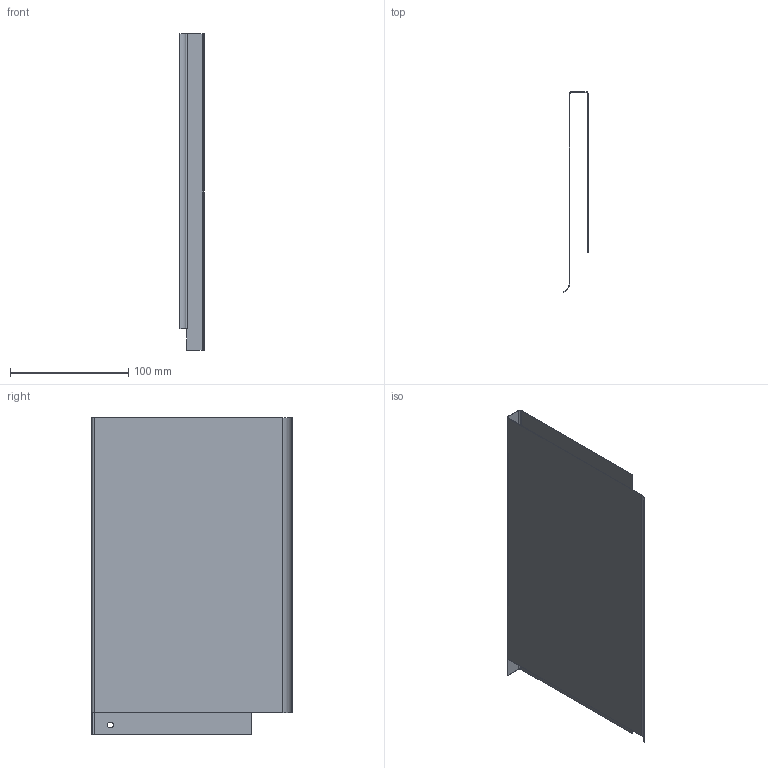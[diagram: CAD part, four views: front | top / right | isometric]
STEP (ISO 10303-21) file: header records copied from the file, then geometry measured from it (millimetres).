
FILE_DESCRIPTION (( 'STEP AP203' ), '1' );
FILE_NAME ('Nova Pro Duowing H186 HRW Classic rechts_NL270.step', '2014-02-14T11:54:46', ( 'test' ), ( '' ), 'SwSTEP 2.0', 'SolidWorks 2013', '' );
FILE_SCHEMA (( 'CONFIG_CONTROL_DESIGN' ));
Length unit declared in the file: millimetre
Products named in the file (1): Nova Pro Duowing H186 HRW Classic rechts_NL270
Bounding box: 20.72 x 169 x 267.5 mm (x, y, z)
Volume: 41109.5 mm3; surface area: 165032.4 mm2
Topology: 1 solids, 1 shells, 29 faces, 66 edges, 39 vertices
Faces by surface type: plane 20, cylinder 9
Entity records: 880 total; most frequent: DIRECTION 145, CARTESIAN_POINT 135, ORIENTED_EDGE 132, EDGE_CURVE 66, AXIS2_PLACEMENT_3D 49, LINE 47, VECTOR 47, VERTEX_POINT 39
